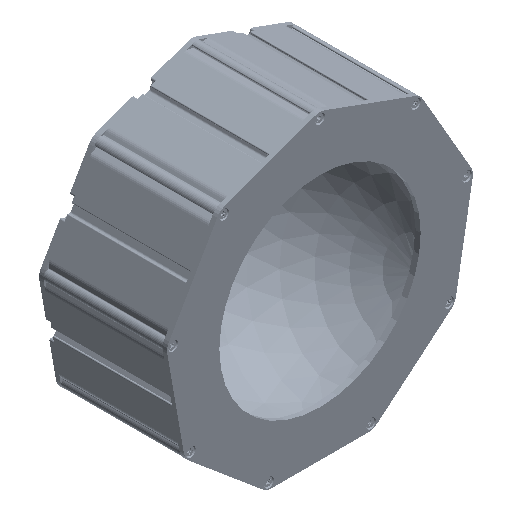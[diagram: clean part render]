
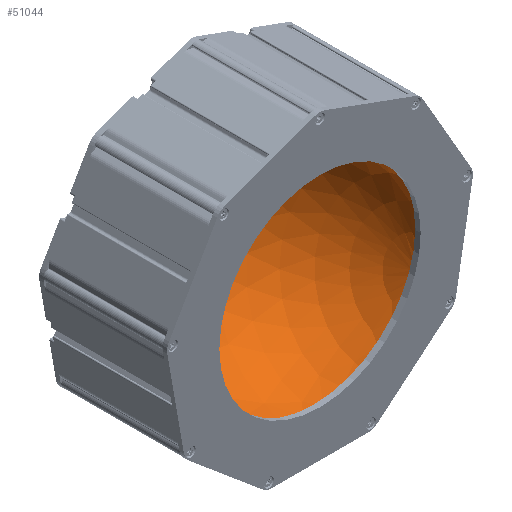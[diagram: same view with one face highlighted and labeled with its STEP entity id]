
A CAD part, isometric view. The second image highlights one B-rep face of the part: STEP entity #51044.
In plain terms, the highlighted spherical face has radius 79.375 mm.
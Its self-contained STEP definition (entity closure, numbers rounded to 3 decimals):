
#1438 = DIRECTION ( 'NONE',  ( 0., 1., 0. ) ) ;
#3373 = CARTESIAN_POINT ( 'NONE',  ( 0., 3.345, 0. ) ) ;
#5669 = DIRECTION ( 'NONE',  ( -1., 0., 0. ) ) ;
#7544 = VERTEX_POINT ( 'NONE', #46188 ) ;
#9124 = DIRECTION ( 'NONE',  ( 0., 0., -1. ) ) ;
#10885 = ORIENTED_EDGE ( 'NONE', *, *, #57275, .F. ) ;
#12175 = AXIS2_PLACEMENT_3D ( 'NONE', #26876, #66920, #32616 ) ;
#12710 = ORIENTED_EDGE ( 'NONE', *, *, #43951, .T. ) ;
#12738 = DIRECTION ( 'NONE',  ( 1., 0., 0. ) ) ;
#14301 = CARTESIAN_POINT ( 'NONE',  ( -15., 77.945, 0. ) ) ;
#14371 = AXIS2_PLACEMENT_3D ( 'NONE', #66608, #32303, #72417 ) ;
#14540 = CIRCLE ( 'NONE', #43075, 15. ) ;
#14739 = CARTESIAN_POINT ( 'NONE',  ( -79.304, 3.345, 0. ) ) ;
#15678 = VERTEX_POINT ( 'NONE', #14301 ) ;
#18963 = AXIS2_PLACEMENT_3D ( 'NONE', #73999, #39926, #5669 ) ;
#26876 = CARTESIAN_POINT ( 'NONE',  ( 0., 3.345, 0. ) ) ;
#26952 = CIRCLE ( 'NONE', #12175, 79.304 ) ;
#27065 = CARTESIAN_POINT ( 'NONE',  ( 0., 0., 0. ) ) ;
#27687 = FACE_OUTER_BOUND ( 'NONE', #59056, .T. ) ;
#29405 = CIRCLE ( 'NONE', #37695, 79.304 ) ;
#32303 = DIRECTION ( 'NONE',  ( 0., 1., 0. ) ) ;
#32541 = AXIS2_PLACEMENT_3D ( 'NONE', #64072, #47020, #12738 ) ;
#32616 = DIRECTION ( 'NONE',  ( 0., 0., -1. ) ) ;
#32813 = DIRECTION ( 'NONE',  ( 1., 0., 0. ) ) ;
#33138 = ORIENTED_EDGE ( 'NONE', *, *, #37883, .T. ) ;
#35688 = CARTESIAN_POINT ( 'NONE',  ( 0., 77.945, 0. ) ) ;
#35966 = CARTESIAN_POINT ( 'NONE',  ( 0., 77.945, -15. ) ) ;
#37480 = SPHERICAL_SURFACE ( 'NONE', #32541, 79.375 ) ;
#37695 = AXIS2_PLACEMENT_3D ( 'NONE', #3373, #43421, #9124 ) ;
#37883 = EDGE_CURVE ( 'NONE', #54553, #15678, #14540, .T. ) ;
#37965 = ORIENTED_EDGE ( 'NONE', *, *, #44623, .T. ) ;
#38879 = ORIENTED_EDGE ( 'NONE', *, *, #39002, .T. ) ;
#39002 = EDGE_CURVE ( 'NONE', #44935, #54553, #40903, .T. ) ;
#39926 = DIRECTION ( 'NONE',  ( 0., 0., -1. ) ) ;
#40903 = CIRCLE ( 'NONE', #14371, 15. ) ;
#41441 = DIRECTION ( 'NONE',  ( 0., 0., -1. ) ) ;
#43075 = AXIS2_PLACEMENT_3D ( 'NONE', #35688, #1438, #41441 ) ;
#43421 = DIRECTION ( 'NONE',  ( 0., -1., 0. ) ) ;
#43851 = CIRCLE ( 'NONE', #18963, 79.375 ) ;
#43951 = EDGE_CURVE ( 'NONE', #15678, #71915, #53689, .T. ) ;
#44623 = EDGE_CURVE ( 'NONE', #71915, #7544, #29405, .T. ) ;
#44935 = VERTEX_POINT ( 'NONE', #48525 ) ;
#46188 = CARTESIAN_POINT ( 'NONE',  ( 0., 3.345, -79.304 ) ) ;
#47020 = DIRECTION ( 'NONE',  ( 0., 0., 1. ) ) ;
#48525 = CARTESIAN_POINT ( 'NONE',  ( 15., 77.945, 0. ) ) ;
#49865 = CARTESIAN_POINT ( 'NONE',  ( 79.304, 3.345, 0. ) ) ;
#51044 = ADVANCED_FACE ( 'NONE', ( #27687 ), #37480, .F. ) ;
#53689 = CIRCLE ( 'NONE', #57398, 79.375 ) ;
#54553 = VERTEX_POINT ( 'NONE', #35966 ) ;
#55616 = EDGE_CURVE ( 'NONE', #7544, #60334, #26952, .T. ) ;
#57275 = EDGE_CURVE ( 'NONE', #44935, #60334, #43851, .T. ) ;
#57398 = AXIS2_PLACEMENT_3D ( 'NONE', #27065, #67119, #32813 ) ;
#59056 = EDGE_LOOP ( 'NONE', ( #38879, #33138, #12710, #37965, #59948, #10885 ) ) ;
#59948 = ORIENTED_EDGE ( 'NONE', *, *, #55616, .T. ) ;
#60334 = VERTEX_POINT ( 'NONE', #49865 ) ;
#64072 = CARTESIAN_POINT ( 'NONE',  ( 0., 0., 0. ) ) ;
#66608 = CARTESIAN_POINT ( 'NONE',  ( 0., 77.945, 0. ) ) ;
#66920 = DIRECTION ( 'NONE',  ( 0., -1., 0. ) ) ;
#67119 = DIRECTION ( 'NONE',  ( 0., 0., 1. ) ) ;
#71915 = VERTEX_POINT ( 'NONE', #14739 ) ;
#72417 = DIRECTION ( 'NONE',  ( 0., 0., -1. ) ) ;
#73999 = CARTESIAN_POINT ( 'NONE',  ( 0., 0., 0. ) ) ;
